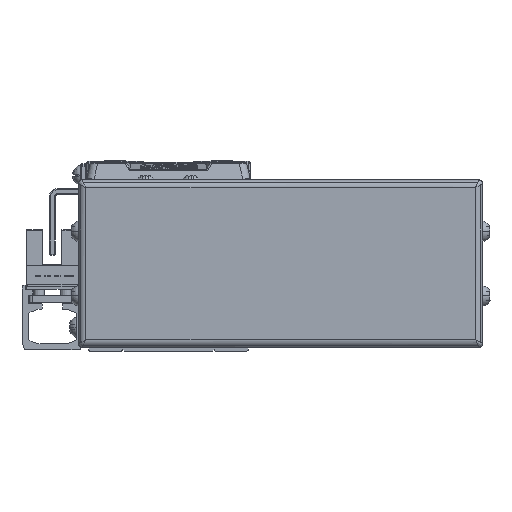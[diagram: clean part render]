
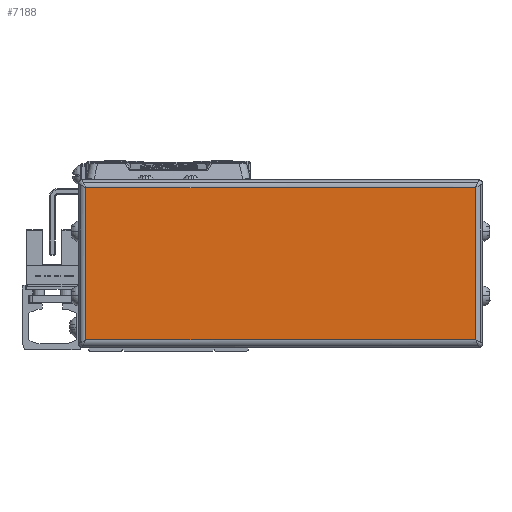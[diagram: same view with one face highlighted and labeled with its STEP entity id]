
A CAD part, left-side view. The second image highlights one B-rep face of the part: STEP entity #7188.
In plain terms, the highlighted planar face has unit normal (-1, 0, 0).
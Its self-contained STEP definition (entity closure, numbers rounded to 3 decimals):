
#7188=ADVANCED_FACE('',(#14512),#14513,.T.);
#14512=FACE_OUTER_BOUND('',#25191,.T.);
#14513=PLANE('',#25192);
#25191=EDGE_LOOP('',(#45597,#45598,#45599,#45600));
#25192=AXIS2_PLACEMENT_3D('',#45601,#45602,#45603);
#45597=ORIENTED_EDGE('',*,*,#47113,.F.);
#45598=ORIENTED_EDGE('',*,*,#53689,.F.);
#45599=ORIENTED_EDGE('',*,*,#46502,.F.);
#45600=ORIENTED_EDGE('',*,*,#52363,.F.);
#45601=CARTESIAN_POINT('',(-48.,-29.5,-4.));
#45602=DIRECTION('',(-1.0,0.,0.));
#45603=DIRECTION('',(0.,0.,1.0));
#46502=EDGE_CURVE('',#54780,#54782,#54783,.T.);
#47113=EDGE_CURVE('',#55891,#55893,#55894,.T.);
#52363=EDGE_CURVE('',#55893,#54780,#64073,.T.);
#53689=EDGE_CURVE('',#54782,#55891,#65738,.T.);
#54780=VERTEX_POINT('',#66883);
#54782=VERTEX_POINT('',#66885);
#54783=LINE('',#66886,#66887);
#55891=VERTEX_POINT('',#68576);
#55893=VERTEX_POINT('',#68578);
#55894=LINE('',#68579,#68580);
#64073=LINE('',#80316,#80317);
#65738=LINE('',#82736,#82737);
#66883=CARTESIAN_POINT('',(-48.,-80.7,-24.));
#66885=CARTESIAN_POINT('',(-48.,21.7,-24.));
#66886=CARTESIAN_POINT('',(-48.,-29.5,-24.));
#66887=VECTOR('',#84226,10.0);
#68576=CARTESIAN_POINT('',(-48.,21.7,16.));
#68578=CARTESIAN_POINT('',(-48.,-80.7,16.));
#68579=CARTESIAN_POINT('',(-48.,-29.5,16.));
#68580=VECTOR('',#85061,10.0);
#80316=CARTESIAN_POINT('',(-48.,-80.7,-4.));
#80317=VECTOR('',#91910,10.0);
#82736=CARTESIAN_POINT('',(-48.,21.7,-4.));
#82737=VECTOR('',#93354,10.0);
#84226=DIRECTION('',(0.,1.0,0.));
#85061=DIRECTION('',(0.,-1.0,0.));
#91910=DIRECTION('',(0.,0.,-1.0));
#93354=DIRECTION('',(0.,0.,1.0));
